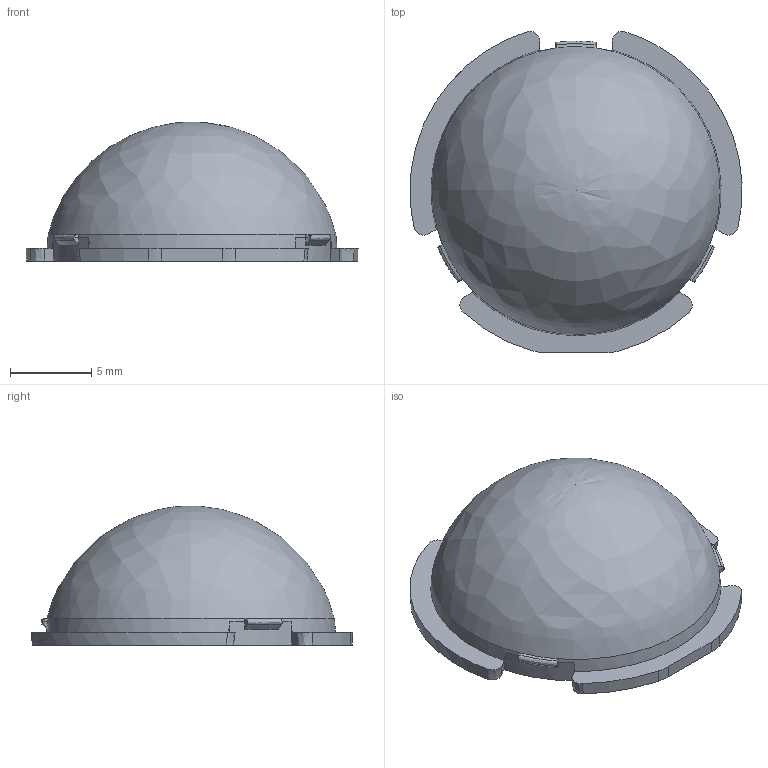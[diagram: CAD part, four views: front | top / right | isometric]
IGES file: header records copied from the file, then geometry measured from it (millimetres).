
Start section: C
Global section: file name: 022-N08-03.igs; native system: By Siemens PLM Incorporated; preprocessor: XPlus GENERIC/IGES 23.0.61; author: Author; organization: Title; date: 20260611.083603; units: millimetre
Bounding box: 20.49 x 19.82 x 8.63 mm (x, y, z)
Volume: 553.2 mm3; surface area: 1048.3 mm2
Topology: 1 solids, 1 shells, 254 faces, 666 edges, 442 vertices
Faces by surface type: bspline 254
